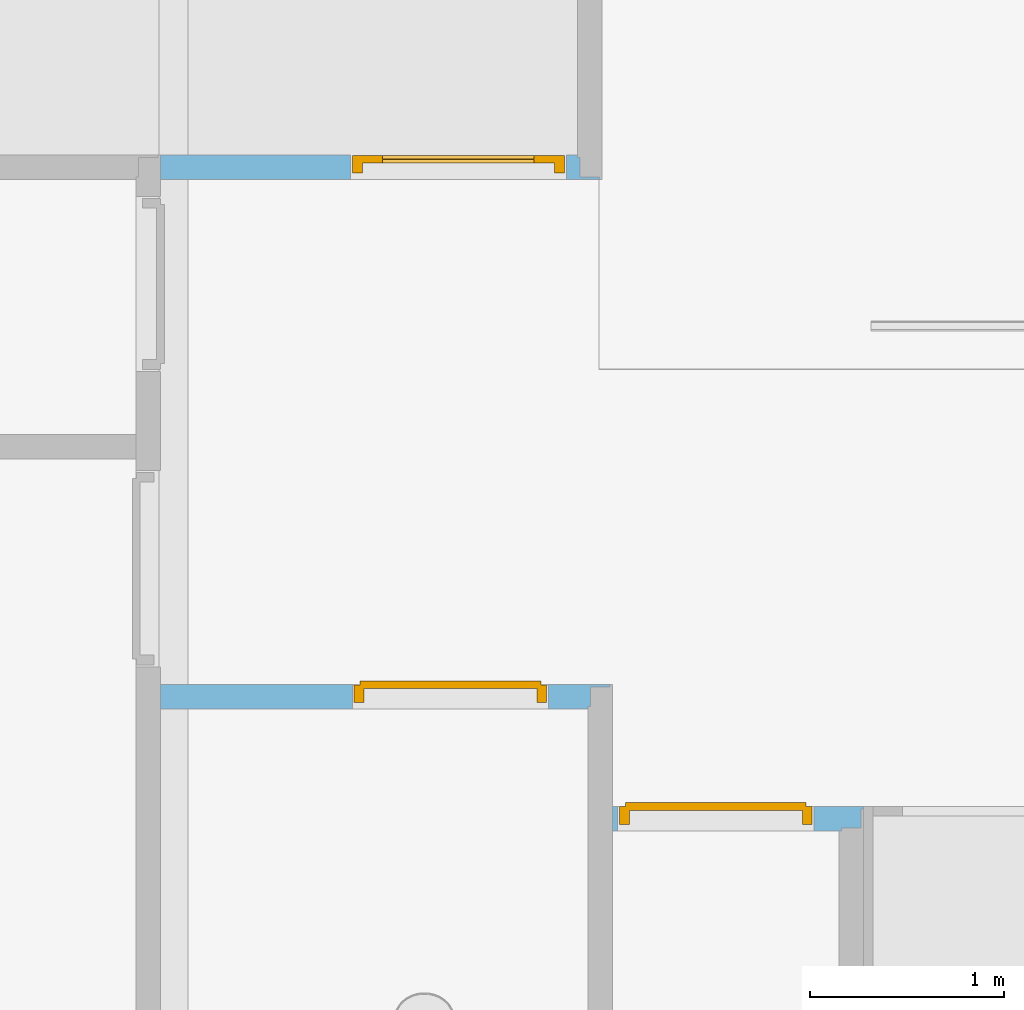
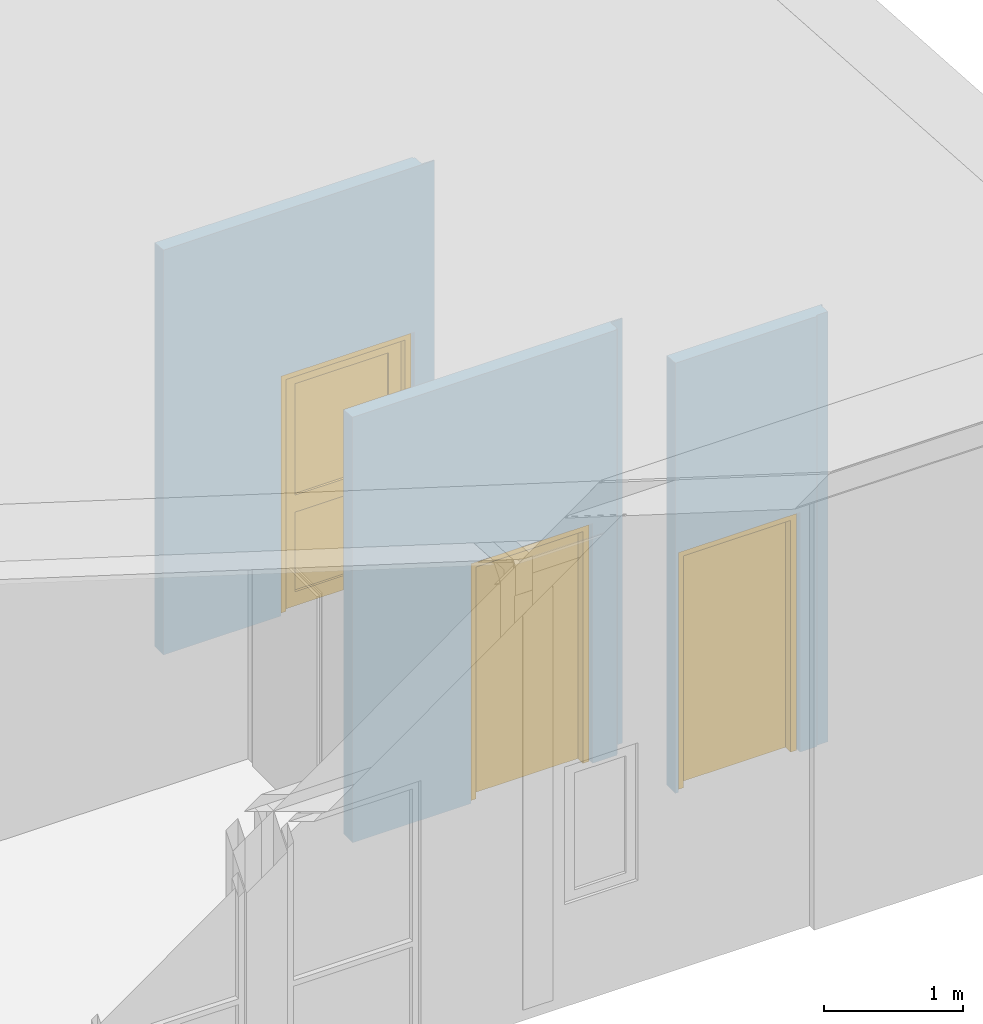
# One storey, part 30 of 37: 3 doors, 3 openings, plus 3 elements that do not belong to this part.
"""IFC2X3 building model written with IfcOpenShell, lengths in millimetres."""

from ifc_helpers import new_model, entity, si_unit, converted_unit, frame, frame_2d, origin, origin_with_axes, place, context, subcontext, project, spatial, polyline, rectangle, outline, extrude, clip, halfspace, bounded_halfspace, faceted_brep, material, layer, layer_set, layer_usage, type_object, element, fill, save


model = new_model("IFC2X3")

# Units and contexts
model_context = context("Model", 3, precision=1e-05, world=origin())
plan_context = context("Plan", 3, precision=1e-05, world=origin())
body_context = subcontext(model_context, "Body", "Model", "MODEL_VIEW")
ifc_project = project(units=[si_unit("LENGTHUNIT", "METRE", prefix="MILLI"), converted_unit("PLANEANGLEUNIT", "DEGREE", entity("IfcPlaneAngleMeasure", 0.0174532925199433), si_unit("PLANEANGLEUNIT", "RADIAN"), dimensions=[0, 0, 0, 0, 0, 0, 0]), si_unit("AREAUNIT", "SQUARE_METRE"), si_unit("VOLUMEUNIT", "CUBIC_METRE")], contexts=[model_context, plan_context])

# Building, storey
building_placement = place(None, origin())
building = spatial("IfcBuilding", under=ifc_project, at=building_placement, Name="HEKF Administrasjonbygg", CompositionType="ELEMENT")
storey_placement = place(building_placement, frame((0.0, 0.0, 9900.0), z_axis=(0.0, 0.0, 1.0), x_axis=(1.0, 0.0, 0.0)))
storey = spatial("IfcBuildingStorey", under=building, at=storey_placement, Name="Plan 2", CompositionType="ELEMENT", Elevation=9900.0)

# Wall, opening, door
ifc_material_1 = material(Name="gips")
ifc_layer_1 = layer(ifc_material_1, 13.0)
ifc_material_2 = material(Name="riegel stål 100")
ifc_layer_2 = layer(ifc_material_2, 100.0)
ifc_material_3 = material(Name="gips")
ifc_layer_3 = layer(ifc_material_3, 13.0)
ifc_layer_set_1 = layer_set([ifc_layer_1, ifc_layer_2, ifc_layer_3])
ifc_layer_usage_1 = layer_usage(ifc_layer_set_1, "AXIS2", "POSITIVE", 0.0)
wall_1_placement = place(storey_placement, frame((27077.53209661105, -6799.0, 0.0), z_axis=(0.0, 0.0, 1.0), x_axis=(-1.0, 0.0, 0.0)))
wall_1 = element("IfcWallStandardCase", 1, at=wall_1_placement, inside=storey, material=ifc_layer_usage_1, context=body_context, shape_type="Clipping", body=[
    clip(clip(extrude(outline(polyline([(-113.0, 126.0), (-113.0, 113.0), (-13.0, 113.0), (-13.0, 13.0), (0.0, 13.0), (0.0, 0.0), (2144.614546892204, 0.0), (2144.614546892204, 126.0), (-113.0, 126.0)])), origin_with_axes(), (0.0, 0.0, 1.0), 3561.666666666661), bounded_halfspace(frame((2157.614546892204, 0.0, 3553.266666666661), z_axis=(0.0, 0.06651901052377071, -0.9977851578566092), x_axis=(1.0, 0.0, 0.0)), True, origin(), polyline([(2157.614546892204, 0.0), (6301.532096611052, 0.0), (6301.532096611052, 13.0), (6201.532096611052, 13.0), (6201.532096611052, 113.0), (6188.532096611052, 113.0), (6188.532096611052, 126.0), (2270.614546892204, 126.0), (2270.614546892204, 113.0), (2257.614546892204, 113.0), (2257.614546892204, 13.0), (2157.614546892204, 13.0), (2157.614546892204, 0.0)]))), bounded_halfspace(frame((0.0, 0.0, 3553.266666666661), z_axis=(0.0, 0.06651901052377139, -0.9977851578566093), x_axis=(1.0, 0.0, 0.0)), True, origin(), polyline([(0.0, 0.0), (2144.614546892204, 0.0), (2144.614546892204, 126.0), (-113.0, 126.0), (-113.0, 113.0), (-13.0, 113.0), (-13.0, 13.0), (0.0, 13.0), (0.0, 0.0)]))),
])
opening_1_placement = place(wall_1_placement, frame((56.68656002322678, 0.0, 0.0), z_axis=(0.0, 1.0, 0.0), x_axis=(0.0, 0.0, 1.0)))
opening_1 = element("IfcOpeningElement", 2, at=opening_1_placement, cuts=wall_1, Name="Door opening", ObjectType="Opening", context=body_context, shape_type="SweptSolid", body=[
    extrude(rectangle(XDim=2110.0, YDim=1110.0, at=frame_2d((1055.0, 555.0), x_axis=(1.0, 0.0))), origin_with_axes(), (0.0, 0.0, 1.0), 126.0),
])
ifc_material_4 = material()
door_style_1 = type_object("IfcDoorStyle", Name="D105", ConstructionType="NOTDEFINED", OperationType="USERDEFINED", ParameterTakesPrecedence=False, Sizeable=False)
door_1_placement = place(opening_1_placement, frame((0.0, 0.0, 0.0), z_axis=(1.0, 0.0, 0.0), x_axis=(0.0, 1.0, 0.0)))
door_1 = element("IfcDoor", 3, at=door_1_placement, inside=storey, type_object=door_style_1, material=ifc_material_4, Name="D105", OverallHeight=2110.0, OverallWidth=1110.0, context=body_context, shape_type="Brep", body=[
    faceted_brep([(9.999999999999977, 1.000000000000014, 2090.0), (59.99999999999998, 1.0, 2090.0), (59.99999999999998, 1.000000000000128, -2.816687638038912e-15), (9.999999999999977, 1.000000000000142, -2.816687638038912e-15), (10.0, 93.00000000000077, 2.816687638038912e-15), (60.0, 93.00000000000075, 2.816687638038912e-15), (60.0, 93.00000000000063, 2090.0), (10.0, 93.00000000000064, 2090.0), (9.999999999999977, 1.000000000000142, -2.816687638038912e-15), (10.0, 93.00000000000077, 2.816687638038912e-15), (10.0, 93.00000000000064, 2090.0), (9.999999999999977, 1.000000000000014, 2090.0), (59.99999999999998, 1.000000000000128, -2.816687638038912e-15), (60.0, 93.00000000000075, 2.816687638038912e-15), (10.0, 93.00000000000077, 2.816687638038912e-15), (9.999999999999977, 1.000000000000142, -2.816687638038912e-15), (59.99999999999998, 1.0, 2090.0), (60.0, 93.00000000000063, 2090.0), (60.0, 93.00000000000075, 2.816687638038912e-15), (59.99999999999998, 1.000000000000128, -2.816687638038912e-15), (9.999999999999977, 1.000000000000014, 2090.0), (10.0, 93.00000000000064, 2090.0), (60.0, 93.00000000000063, 2090.0), (59.99999999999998, 1.0, 2090.0)], [[[0, 1, 2, 3]], [[4, 5, 6, 7]], [[8, 9, 10, 11]], [[12, 13, 14, 15]], [[16, 17, 18, 19]], [[20, 21, 22, 23]]], orient=[[False], [False], [False], [False], [False], [False]]),
    faceted_brep([(1050.0, 0.9999999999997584, 2090.0), (1100.0, 0.9999999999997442, 2090.0), (1100.0, 0.9999999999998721, -2.816687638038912e-15), (1050.0, 0.9999999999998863, -2.816687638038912e-15), (1050.0, 93.00000000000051, 2.816687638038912e-15), (1100.0, 93.00000000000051, 2.816687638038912e-15), (1100.0, 93.00000000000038, 2090.0), (1050.0, 93.00000000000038, 2090.0), (1050.0, 0.9999999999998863, -2.816687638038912e-15), (1050.0, 93.00000000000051, 2.816687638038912e-15), (1050.0, 93.00000000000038, 2090.0), (1050.0, 0.9999999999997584, 2090.0), (1100.0, 0.9999999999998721, -2.816687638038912e-15), (1100.0, 93.00000000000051, 2.816687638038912e-15), (1050.0, 93.00000000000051, 2.816687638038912e-15), (1050.0, 0.9999999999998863, -2.816687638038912e-15), (1100.0, 0.9999999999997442, 2090.0), (1100.0, 93.00000000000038, 2090.0), (1100.0, 93.00000000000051, 2.816687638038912e-15), (1100.0, 0.9999999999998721, -2.816687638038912e-15), (1050.0, 0.9999999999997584, 2090.0), (1050.0, 93.00000000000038, 2090.0), (1100.0, 93.00000000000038, 2090.0), (1100.0, 0.9999999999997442, 2090.0)], [[[0, 1, 2, 3]], [[4, 5, 6, 7]], [[8, 9, 10, 11]], [[12, 13, 14, 15]], [[16, 17, 18, 19]], [[20, 21, 22, 23]]], orient=[[False], [False], [False], [False], [False], [False]]),
    faceted_brep([(59.99999999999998, 1.0, 2090.0), (1050.0, 0.9999999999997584, 2090.0), (1050.0, 0.9999999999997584, 2040.0), (59.99999999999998, 1.0, 2040.0), (60.0, 93.00000000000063, 2040.0), (1050.0, 93.00000000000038, 2040.0), (1050.0, 93.00000000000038, 2090.0), (60.0, 93.00000000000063, 2090.0), (59.99999999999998, 1.0, 2040.0), (60.0, 93.00000000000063, 2040.0), (60.0, 93.00000000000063, 2090.0), (59.99999999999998, 1.0, 2090.0), (1050.0, 0.9999999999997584, 2040.0), (1050.0, 93.00000000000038, 2040.0), (60.0, 93.00000000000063, 2040.0), (59.99999999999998, 1.0, 2040.0), (1050.0, 0.9999999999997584, 2090.0), (1050.0, 93.00000000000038, 2090.0), (1050.0, 93.00000000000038, 2040.0), (1050.0, 0.9999999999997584, 2040.0), (59.99999999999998, 1.0, 2090.0), (60.0, 93.00000000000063, 2090.0), (1050.0, 93.00000000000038, 2090.0), (1050.0, 0.9999999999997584, 2090.0)], [[[0, 1, 2, 3]], [[4, 5, 6, 7]], [[8, 9, 10, 11]], [[12, 13, 14, 15]], [[16, 17, 18, 19]], [[20, 21, 22, 23]]], orient=[[False], [False], [False], [False], [False], [False]]),
    faceted_brep([(39.99999999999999, 1.0, 2060.0), (165.0, 0.9999999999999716, 2060.0), (165.0, 1.0000000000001, -20.0), (39.99999999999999, 1.000000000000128, -20.0), (39.99999999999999, 41.00000000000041, -20.0), (165.0, 41.00000000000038, -20.0), (165.0, 41.00000000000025, 2060.0), (39.99999999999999, 41.00000000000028, 2060.0), (39.99999999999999, 1.000000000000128, -20.0), (39.99999999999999, 41.00000000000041, -20.0), (39.99999999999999, 41.00000000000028, 2060.0), (39.99999999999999, 1.0, 2060.0), (165.0, 1.0000000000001, -20.0), (165.0, 41.00000000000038, -20.0), (39.99999999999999, 41.00000000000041, -20.0), (39.99999999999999, 1.000000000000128, -20.0), (165.0, 0.9999999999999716, 2060.0), (165.0, 41.00000000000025, 2060.0), (165.0, 41.00000000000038, -20.0), (165.0, 1.0000000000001, -20.0), (39.99999999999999, 1.0, 2060.0), (39.99999999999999, 41.00000000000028, 2060.0), (165.0, 41.00000000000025, 2060.0), (165.0, 0.9999999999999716, 2060.0)], [[[0, 1, 2, 3]], [[4, 5, 6, 7]], [[8, 9, 10, 11]], [[12, 13, 14, 15]], [[16, 17, 18, 19]], [[20, 21, 22, 23]]], orient=[[False], [False], [False], [False], [False], [False]]),
    faceted_brep([(945.0, 0.9999999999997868, 2060.0), (1070.0, 0.9999999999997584, 2060.0), (1070.0, 0.9999999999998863, -20.0), (945.0, 0.9999999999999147, -20.0), (945.0, 41.00000000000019, -20.0), (1070.0, 41.00000000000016, -20.0), (1070.0, 41.00000000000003, 2060.0), (945.0, 41.00000000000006, 2060.0), (945.0, 0.9999999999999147, -20.0), (945.0, 41.00000000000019, -20.0), (945.0, 41.00000000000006, 2060.0), (945.0, 0.9999999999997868, 2060.0), (1070.0, 0.9999999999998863, -20.0), (1070.0, 41.00000000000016, -20.0), (945.0, 41.00000000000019, -20.0), (945.0, 0.9999999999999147, -20.0), (1070.0, 0.9999999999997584, 2060.0), (1070.0, 41.00000000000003, 2060.0), (1070.0, 41.00000000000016, -20.0), (1070.0, 0.9999999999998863, -20.0), (945.0, 0.9999999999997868, 2060.0), (945.0, 41.00000000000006, 2060.0), (1070.0, 41.00000000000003, 2060.0), (1070.0, 0.9999999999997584, 2060.0)], [[[0, 1, 2, 3]], [[4, 5, 6, 7]], [[8, 9, 10, 11]], [[12, 13, 14, 15]], [[16, 17, 18, 19]], [[20, 21, 22, 23]]], orient=[[False], [False], [False], [False], [False], [False]]),
    faceted_brep([(165.0, 1.000000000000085, 105.0), (945.0, 0.9999999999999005, 105.0), (945.0, 0.9999999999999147, -20.0), (165.0, 1.0000000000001, -20.0), (165.0, 41.00000000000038, -20.0), (945.0, 41.00000000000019, -20.0), (945.0, 41.00000000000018, 105.0), (165.0, 41.00000000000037, 105.0), (165.0, 1.0000000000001, -20.0), (165.0, 41.00000000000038, -20.0), (165.0, 41.00000000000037, 105.0), (165.0, 1.000000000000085, 105.0), (945.0, 0.9999999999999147, -20.0), (945.0, 41.00000000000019, -20.0), (165.0, 41.00000000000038, -20.0), (165.0, 1.0000000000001, -20.0), (945.0, 0.9999999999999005, 105.0), (945.0, 41.00000000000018, 105.0), (945.0, 41.00000000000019, -20.0), (945.0, 0.9999999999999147, -20.0), (165.0, 1.000000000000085, 105.0), (165.0, 41.00000000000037, 105.0), (945.0, 41.00000000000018, 105.0), (945.0, 0.9999999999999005, 105.0)], [[[0, 1, 2, 3]], [[4, 5, 6, 7]], [[8, 9, 10, 11]], [[12, 13, 14, 15]], [[16, 17, 18, 19]], [[20, 21, 22, 23]]], orient=[[False], [False], [False], [False], [False], [False]]),
    faceted_brep([(165.0, 0.9999999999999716, 2060.0), (945.0, 0.9999999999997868, 2060.0), (945.0, 0.999999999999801, 1935.0), (165.0, 0.9999999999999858, 1935.0), (165.0, 41.00000000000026, 1935.0), (945.0, 41.00000000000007, 1935.0), (945.0, 41.00000000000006, 2060.0), (165.0, 41.00000000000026, 2060.0), (165.0, 0.9999999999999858, 1935.0), (165.0, 41.00000000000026, 1935.0), (165.0, 41.00000000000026, 2060.0), (165.0, 0.9999999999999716, 2060.0), (945.0, 0.999999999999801, 1935.0), (945.0, 41.00000000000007, 1935.0), (165.0, 41.00000000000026, 1935.0), (165.0, 0.9999999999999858, 1935.0), (945.0, 0.9999999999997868, 2060.0), (945.0, 41.00000000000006, 2060.0), (945.0, 41.00000000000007, 1935.0), (945.0, 0.999999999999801, 1935.0), (165.0, 0.9999999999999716, 2060.0), (165.0, 41.00000000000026, 2060.0), (945.0, 41.00000000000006, 2060.0), (945.0, 0.9999999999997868, 2060.0)], [[[0, 1, 2, 3]], [[4, 5, 6, 7]], [[8, 9, 10, 11]], [[12, 13, 14, 15]], [[16, 17, 18, 19]], [[20, 21, 22, 23]]], orient=[[False], [False], [False], [False], [False], [False]]),
    faceted_brep([(165.0, 1.000000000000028, 955.0), (945.0, 0.9999999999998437, 955.0), (945.0, 0.9999999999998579, 805.0), (165.0, 1.000000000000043, 805.0), (165.0, 41.00000000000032, 805.0), (945.0, 41.00000000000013, 805.0), (945.0, 41.00000000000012, 955.0), (165.0, 41.00000000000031, 955.0), (165.0, 1.000000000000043, 805.0), (165.0, 41.00000000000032, 805.0), (165.0, 41.00000000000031, 955.0), (165.0, 1.000000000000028, 955.0), (945.0, 0.9999999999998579, 805.0), (945.0, 41.00000000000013, 805.0), (165.0, 41.00000000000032, 805.0), (165.0, 1.000000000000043, 805.0), (945.0, 0.9999999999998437, 955.0), (945.0, 41.00000000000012, 955.0), (945.0, 41.00000000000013, 805.0), (945.0, 0.9999999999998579, 805.0), (165.0, 1.000000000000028, 955.0), (165.0, 41.00000000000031, 955.0), (945.0, 41.00000000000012, 955.0), (945.0, 0.9999999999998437, 955.0)], [[[0, 1, 2, 3]], [[4, 5, 6, 7]], [[8, 9, 10, 11]], [[12, 13, 14, 15]], [[16, 17, 18, 19]], [[20, 21, 22, 23]]], orient=[[False], [False], [False], [False], [False], [False]]),
    faceted_brep([(165.0, 21.00000000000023, 105.0), (165.0, 21.00000000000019, 805.0), (945.0, 21.0, 805.0), (945.0, 21.00000000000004, 105.0), (165.0, 22.00000000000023, 105.0), (945.0, 22.00000000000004, 105.0), (945.0, 22.0, 805.0), (165.0, 22.00000000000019, 805.0), (165.0, 21.00000000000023, 105.0), (165.0, 22.00000000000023, 105.0), (165.0, 22.00000000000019, 805.0), (165.0, 21.00000000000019, 805.0), (165.0, 21.00000000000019, 805.0), (165.0, 22.00000000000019, 805.0), (945.0, 22.0, 805.0), (945.0, 21.0, 805.0), (945.0, 21.0, 805.0), (945.0, 22.0, 805.0), (945.0, 22.00000000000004, 105.0), (945.0, 21.00000000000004, 105.0), (945.0, 21.00000000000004, 105.0), (945.0, 22.00000000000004, 105.0), (165.0, 22.00000000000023, 105.0), (165.0, 21.00000000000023, 105.0)], [[[0, 1, 2, 3]], [[4, 5, 6, 7]], [[8, 9, 10, 11]], [[12, 13, 14, 15]], [[16, 17, 18, 19]], [[20, 21, 22, 23]]], orient=[[False], [False], [False], [False], [False], [False]]),
    faceted_brep([(165.0, 21.00000000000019, 955.0), (165.0, 21.00000000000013, 1935.0), (945.0, 20.99999999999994, 1935.0), (945.0, 21.0, 955.0), (165.0, 22.00000000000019, 955.0), (945.0, 22.0, 955.0), (945.0, 21.99999999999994, 1935.0), (165.0, 22.00000000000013, 1935.0), (165.0, 21.00000000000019, 955.0), (165.0, 22.00000000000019, 955.0), (165.0, 22.00000000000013, 1935.0), (165.0, 21.00000000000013, 1935.0), (165.0, 21.00000000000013, 1935.0), (165.0, 22.00000000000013, 1935.0), (945.0, 21.99999999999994, 1935.0), (945.0, 20.99999999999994, 1935.0), (945.0, 20.99999999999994, 1935.0), (945.0, 21.99999999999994, 1935.0), (945.0, 22.0, 955.0), (945.0, 21.0, 955.0), (945.0, 21.0, 955.0), (945.0, 22.0, 955.0), (165.0, 22.00000000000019, 955.0), (165.0, 21.00000000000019, 955.0)], [[[0, 1, 2, 3]], [[4, 5, 6, 7]], [[8, 9, 10, 11]], [[12, 13, 14, 15]], [[16, 17, 18, 19]], [[20, 21, 22, 23]]], orient=[[False], [False], [False], [False], [False], [False]]),
])
fill(opening_1, door_1)

ifc_material_5 = material(Name="gips")
ifc_layer_4 = layer(ifc_material_5, 13.0)
ifc_material_6 = material(Name="riegel stål 100")
ifc_layer_5 = layer(ifc_material_6, 100.0)
ifc_material_7 = material(Name="gips")
ifc_layer_6 = layer(ifc_material_7, 13.0)
ifc_layer_set_2 = layer_set([ifc_layer_4, ifc_layer_5, ifc_layer_6])
ifc_layer_usage_2 = layer_usage(ifc_layer_set_2, "AXIS2", "POSITIVE", 0.0)
wall_2_placement = place(storey_placement, frame((27245.91754971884, -9524.000000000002, 0.0), z_axis=(0.0, 0.0, 1.0), x_axis=(-1.0, 0.0, 0.0)))
wall_2 = element("IfcWallStandardCase", 4, at=wall_2_placement, inside=storey, material=ifc_layer_usage_2, context=body_context, shape_type="Clipping", body=[
    clip(extrude(outline(polyline([(113.0, 126.0), (113.0, 113.0), (100.0, 113.0), (100.0, 13.0), (0.0, 13.0), (0.0, 0.0), (2313.0, 0.0), (2313.0, 126.0), (113.0, 126.0)])), origin_with_axes(), (0.0, 0.0, 1.0), 3743.333333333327), halfspace(frame((0.0, 0.0, 3734.933333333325), z_axis=(0.0, 0.0665190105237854, -0.9977851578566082), x_axis=(1.0, 0.0, 0.0)), True)),
])
opening_2_placement = place(wall_2_placement, frame((316.2869168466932, 0.0, 0.0), z_axis=(0.0, 1.0, 0.0), x_axis=(0.0, 0.0, 1.0)))
opening_2 = element("IfcOpeningElement", 5, at=opening_2_placement, cuts=wall_2, Name="garasjeport med glassfelter:45x6", ObjectType="Opening", context=body_context, shape_type="SweptSolid", body=[
    extrude(rectangle(XDim=2110.0, YDim=1010.0, at=frame_2d((1055.0, 505.0), x_axis=(1.0, 0.0))), origin_with_axes(), (0.0, 0.0, 1.0), 126.0),
])
ifc_material_8 = material()
door_style_2 = type_object("IfcDoorStyle", Name="D102", ConstructionType="NOTDEFINED", OperationType="USERDEFINED", ParameterTakesPrecedence=False, Sizeable=False)
door_2_placement = place(opening_2_placement, frame((0.0, 0.0, 0.0), z_axis=(1.0, 0.0, 0.0), x_axis=(0.0, 1.0, 0.0)))
door_2 = element("IfcDoor", 6, at=door_2_placement, inside=storey, type_object=door_style_2, material=ifc_material_8, Name="D102", OverallHeight=2110.0, OverallWidth=1010.0, context=body_context, shape_type="Brep", body=[
    faceted_brep([(9.999999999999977, 0.9999999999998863, 2090.0), (59.99999999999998, 0.9999999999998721, 2090.0), (59.99999999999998, 1.0, -2.816687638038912e-15), (9.999999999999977, 1.000000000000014, -2.816687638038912e-15), (10.0, 93.0, 2.816687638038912e-15), (60.0, 92.99999999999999, 2.816687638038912e-15), (60.0, 92.99999999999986, 2090.0), (10.0, 92.99999999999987, 2090.0), (9.999999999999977, 1.000000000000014, -2.816687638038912e-15), (10.0, 93.0, 2.816687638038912e-15), (10.0, 92.99999999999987, 2090.0), (9.999999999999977, 0.9999999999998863, 2090.0), (59.99999999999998, 1.0, -2.816687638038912e-15), (60.0, 92.99999999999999, 2.816687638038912e-15), (10.0, 93.0, 2.816687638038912e-15), (9.999999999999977, 1.000000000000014, -2.816687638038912e-15), (59.99999999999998, 0.9999999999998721, 2090.0), (60.0, 92.99999999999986, 2090.0), (60.0, 92.99999999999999, 2.816687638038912e-15), (59.99999999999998, 1.0, -2.816687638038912e-15), (9.999999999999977, 0.9999999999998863, 2090.0), (10.0, 92.99999999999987, 2090.0), (60.0, 92.99999999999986, 2090.0), (59.99999999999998, 0.9999999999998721, 2090.0)], [[[0, 1, 2, 3]], [[4, 5, 6, 7]], [[8, 9, 10, 11]], [[12, 13, 14, 15]], [[16, 17, 18, 19]], [[20, 21, 22, 23]]], orient=[[False], [False], [False], [False], [False], [False]]),
    faceted_brep([(950.0, 0.9999999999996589, 2090.0), (1000.0, 0.9999999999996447, 2090.0), (1000.0, 0.9999999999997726, -2.816687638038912e-15), (950.0, 0.9999999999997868, -2.816687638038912e-15), (950.0, 92.99999999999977, 2.816687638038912e-15), (1000.0, 92.99999999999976, 2.816687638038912e-15), (1000.0, 92.99999999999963, 2090.0), (950.0, 92.99999999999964, 2090.0), (950.0, 0.9999999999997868, -2.816687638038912e-15), (950.0, 92.99999999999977, 2.816687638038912e-15), (950.0, 92.99999999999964, 2090.0), (950.0, 0.9999999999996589, 2090.0), (1000.0, 0.9999999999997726, -2.816687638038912e-15), (1000.0, 92.99999999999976, 2.816687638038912e-15), (950.0, 92.99999999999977, 2.816687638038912e-15), (950.0, 0.9999999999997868, -2.816687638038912e-15), (1000.0, 0.9999999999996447, 2090.0), (1000.0, 92.99999999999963, 2090.0), (1000.0, 92.99999999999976, 2.816687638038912e-15), (1000.0, 0.9999999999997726, -2.816687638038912e-15), (950.0, 0.9999999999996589, 2090.0), (950.0, 92.99999999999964, 2090.0), (1000.0, 92.99999999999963, 2090.0), (1000.0, 0.9999999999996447, 2090.0)], [[[0, 1, 2, 3]], [[4, 5, 6, 7]], [[8, 9, 10, 11]], [[12, 13, 14, 15]], [[16, 17, 18, 19]], [[20, 21, 22, 23]]], orient=[[False], [False], [False], [False], [False], [False]]),
    faceted_brep([(59.99999999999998, 0.9999999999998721, 2090.0), (949.9999999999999, 0.9999999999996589, 2090.0), (949.9999999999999, 0.9999999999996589, 2040.0), (59.99999999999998, 0.9999999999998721, 2040.0), (60.0, 92.99999999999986, 2040.0), (949.9999999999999, 92.99999999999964, 2040.0), (949.9999999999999, 92.99999999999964, 2090.0), (60.0, 92.99999999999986, 2090.0), (59.99999999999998, 0.9999999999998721, 2040.0), (60.0, 92.99999999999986, 2040.0), (60.0, 92.99999999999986, 2090.0), (59.99999999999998, 0.9999999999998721, 2090.0), (949.9999999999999, 0.9999999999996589, 2040.0), (949.9999999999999, 92.99999999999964, 2040.0), (60.0, 92.99999999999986, 2040.0), (59.99999999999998, 0.9999999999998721, 2040.0), (949.9999999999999, 0.9999999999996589, 2090.0), (949.9999999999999, 92.99999999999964, 2090.0), (949.9999999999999, 92.99999999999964, 2040.0), (949.9999999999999, 0.9999999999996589, 2040.0), (59.99999999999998, 0.9999999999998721, 2090.0), (60.0, 92.99999999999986, 2090.0), (949.9999999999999, 92.99999999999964, 2090.0), (949.9999999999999, 0.9999999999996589, 2090.0)], [[[0, 1, 2, 3]], [[4, 5, 6, 7]], [[8, 9, 10, 11]], [[12, 13, 14, 15]], [[16, 17, 18, 19]], [[20, 21, 22, 23]]], orient=[[False], [False], [False], [False], [False], [False]]),
    faceted_brep([(39.99999999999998, -19.00000000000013, 2060.0), (969.9999999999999, -19.00000000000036, 2060.0), (969.9999999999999, -19.00000000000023, -4.041334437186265e-15), (39.99999999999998, -19.0, -4.041334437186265e-15), (39.99999999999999, 21.0, -1.592040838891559e-15), (969.9999999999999, 20.99999999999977, -1.592040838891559e-15), (969.9999999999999, 20.99999999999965, 2060.0), (39.99999999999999, 20.99999999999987, 2060.0), (39.99999999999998, -19.0, -4.041334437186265e-15), (39.99999999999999, 21.0, -1.592040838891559e-15), (39.99999999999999, 20.99999999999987, 2060.0), (39.99999999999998, -19.00000000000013, 2060.0), (969.9999999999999, -19.00000000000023, -4.041334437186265e-15), (969.9999999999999, 20.99999999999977, -1.592040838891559e-15), (39.99999999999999, 21.0, -1.592040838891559e-15), (39.99999999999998, -19.0, -4.041334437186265e-15), (969.9999999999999, -19.00000000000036, 2060.0), (969.9999999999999, 20.99999999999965, 2060.0), (969.9999999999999, 20.99999999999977, -1.592040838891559e-15), (969.9999999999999, -19.00000000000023, -4.041334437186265e-15), (39.99999999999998, -19.00000000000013, 2060.0), (39.99999999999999, 20.99999999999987, 2060.0), (969.9999999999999, 20.99999999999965, 2060.0), (969.9999999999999, -19.00000000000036, 2060.0)], [[[0, 1, 2, 3]], [[4, 5, 6, 7]], [[8, 9, 10, 11]], [[12, 13, 14, 15]], [[16, 17, 18, 19]], [[20, 21, 22, 23]]], orient=[[False], [False], [False], [False], [False], [False]]),
])
fill(opening_2, door_2)

ifc_material_9 = material(Name="gips")
ifc_layer_7 = layer(ifc_material_9, 13.0)
ifc_material_10 = material(Name="riegel stål 100")
ifc_layer_8 = layer(ifc_material_10, 100.0)
ifc_material_11 = material(Name="gips")
ifc_layer_9 = layer(ifc_material_11, 13.0)
ifc_layer_set_3 = layer_set([ifc_layer_7, ifc_layer_8, ifc_layer_9])
ifc_layer_usage_3 = layer_usage(ifc_layer_set_3, "AXIS2", "POSITIVE", 0.0)
wall_3_placement = place(storey_placement, frame((28550.0, -10150.0, 0.0), z_axis=(0.0, 0.0, 1.0), x_axis=(-1.0, 0.0, 0.0)))
wall_3 = element("IfcWallStandardCase", 7, at=wall_3_placement, inside=storey, material=ifc_layer_usage_3, context=body_context, shape_type="Clipping", body=[
    clip(extrude(outline(polyline([(113.0, 126.0), (113.0, 113.0), (13.0, 113.0), (13.0, 13.0), (0.0, 13.0), (0.0, 0.0), (1291.082450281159, 0.0), (1291.082450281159, 126.0), (113.0, 126.0)])), origin_with_axes(), (0.0, 0.0, 1.0), 3785.06666666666), halfspace(frame((0.0, 0.0, 3776.666666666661), z_axis=(0.0, 0.06651901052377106, -0.9977851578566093), x_axis=(1.0, 0.0, 0.0)), True)),
])
opening_3_placement = place(wall_3_placement, frame((254.3480308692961, 0.0, 0.0), z_axis=(0.0, 1.0, 0.0), x_axis=(0.0, 0.0, 1.0)))
opening_3 = element("IfcOpeningElement", 8, at=opening_3_placement, cuts=wall_3, Name="Door opening", ObjectType="Opening", context=body_context, shape_type="SweptSolid", body=[
    extrude(rectangle(XDim=2110.0, YDim=1010.0, at=frame_2d((1055.0, 505.0), x_axis=(1.0, 0.0))), origin_with_axes(), (0.0, 0.0, 1.0), 126.0),
])
ifc_material_12 = material()
door_style_3 = type_object("IfcDoorStyle", Name="D101", ConstructionType="NOTDEFINED", OperationType="USERDEFINED", ParameterTakesPrecedence=False, Sizeable=False)
door_3_placement = place(opening_3_placement, frame((0.0, 0.0, 0.0), z_axis=(1.0, 0.0, 0.0), x_axis=(0.0, 1.0, 0.0)))
door_3 = element("IfcDoor", 9, at=door_3_placement, inside=storey, type_object=door_style_3, material=ifc_material_12, Name="D101", OverallHeight=2110.0, OverallWidth=1010.0, context=body_context, shape_type="Brep", body=[
    faceted_brep([(1000.0, 0.9999999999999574, 2090.0), (1000.0, 1.000000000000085, -2.816687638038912e-15), (950.0, 1.0000000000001, -2.816687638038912e-15), (950.0, 0.9999999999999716, 2090.0), (1000.0, 92.99999999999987, 2.816687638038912e-15), (1000.0, 92.99999999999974, 2090.0), (950.0, 92.99999999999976, 2090.0), (950.0, 92.99999999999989, 2.816687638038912e-15), (1000.0, 1.000000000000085, -2.816687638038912e-15), (1000.0, 0.9999999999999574, 2090.0), (1000.0, 92.99999999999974, 2090.0), (1000.0, 92.99999999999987, 2.816687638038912e-15), (950.0, 1.0000000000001, -2.816687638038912e-15), (1000.0, 1.000000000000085, -2.816687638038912e-15), (1000.0, 92.99999999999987, 2.816687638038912e-15), (950.0, 92.99999999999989, 2.816687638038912e-15), (950.0, 0.9999999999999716, 2090.0), (950.0, 1.0000000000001, -2.816687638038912e-15), (950.0, 92.99999999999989, 2.816687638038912e-15), (950.0, 92.99999999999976, 2090.0), (1000.0, 0.9999999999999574, 2090.0), (950.0, 0.9999999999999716, 2090.0), (950.0, 92.99999999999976, 2090.0), (1000.0, 92.99999999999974, 2090.0)], [[[0, 1, 2, 3]], [[4, 5, 6, 7]], [[8, 9, 10, 11]], [[12, 13, 14, 15]], [[16, 17, 18, 19]], [[20, 21, 22, 23]]], orient=[[False], [False], [False], [False], [False], [False]]),
    faceted_brep([(60.0, 1.000000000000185, 2090.0), (60.0, 1.000000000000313, -2.816687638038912e-15), (10.0, 1.000000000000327, -2.816687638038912e-15), (10.0, 1.000000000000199, 2090.0), (60.0, 93.00000000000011, 2.816687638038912e-15), (60.0, 92.99999999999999, 2090.0), (10.0, 92.99999999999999, 2090.0), (10.0, 93.00000000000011, 2.816687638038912e-15), (60.0, 1.000000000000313, -2.816687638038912e-15), (60.0, 1.000000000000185, 2090.0), (60.0, 92.99999999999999, 2090.0), (60.0, 93.00000000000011, 2.816687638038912e-15), (10.0, 1.000000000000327, -2.816687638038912e-15), (60.0, 1.000000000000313, -2.816687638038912e-15), (60.0, 93.00000000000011, 2.816687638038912e-15), (10.0, 93.00000000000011, 2.816687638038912e-15), (10.0, 1.000000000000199, 2090.0), (10.0, 1.000000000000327, -2.816687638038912e-15), (10.0, 93.00000000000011, 2.816687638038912e-15), (10.0, 92.99999999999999, 2090.0), (60.0, 1.000000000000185, 2090.0), (10.0, 1.000000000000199, 2090.0), (10.0, 92.99999999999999, 2090.0), (60.0, 92.99999999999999, 2090.0)], [[[0, 1, 2, 3]], [[4, 5, 6, 7]], [[8, 9, 10, 11]], [[12, 13, 14, 15]], [[16, 17, 18, 19]], [[20, 21, 22, 23]]], orient=[[False], [False], [False], [False], [False], [False]]),
    faceted_brep([(950.0, 0.9999999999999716, 2090.0), (950.0, 0.9999999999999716, 2040.0), (60.00000000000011, 1.000000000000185, 2040.0), (60.00000000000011, 1.000000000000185, 2090.0), (950.0, 92.99999999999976, 2040.0), (950.0, 92.99999999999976, 2090.0), (60.00000000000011, 92.99999999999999, 2090.0), (60.00000000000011, 92.99999999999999, 2040.0), (950.0, 0.9999999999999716, 2040.0), (950.0, 0.9999999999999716, 2090.0), (950.0, 92.99999999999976, 2090.0), (950.0, 92.99999999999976, 2040.0), (60.00000000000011, 1.000000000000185, 2040.0), (950.0, 0.9999999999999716, 2040.0), (950.0, 92.99999999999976, 2040.0), (60.00000000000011, 92.99999999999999, 2040.0), (60.00000000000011, 1.000000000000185, 2090.0), (60.00000000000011, 1.000000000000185, 2040.0), (60.00000000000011, 92.99999999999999, 2040.0), (60.00000000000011, 92.99999999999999, 2090.0), (950.0, 0.9999999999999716, 2090.0), (60.00000000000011, 1.000000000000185, 2090.0), (60.00000000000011, 92.99999999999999, 2090.0), (950.0, 92.99999999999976, 2090.0)], [[[0, 1, 2, 3]], [[4, 5, 6, 7]], [[8, 9, 10, 11]], [[12, 13, 14, 15]], [[16, 17, 18, 19]], [[20, 21, 22, 23]]], orient=[[False], [False], [False], [False], [False], [False]]),
    faceted_brep([(970.0, -18.99999999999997, 2060.0), (970.0, -18.99999999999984, -4.041334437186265e-15), (40.00000000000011, -18.99999999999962, -4.041334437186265e-15), (40.00000000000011, -18.99999999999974, 2060.0), (970.0, 21.00000000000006, -1.592040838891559e-15), (970.0, 20.99999999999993, 2060.0), (40.00000000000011, 21.00000000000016, 2060.0), (40.00000000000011, 21.00000000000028, -1.592040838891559e-15), (970.0, -18.99999999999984, -4.041334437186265e-15), (970.0, -18.99999999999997, 2060.0), (970.0, 20.99999999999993, 2060.0), (970.0, 21.00000000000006, -1.592040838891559e-15), (40.00000000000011, -18.99999999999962, -4.041334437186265e-15), (970.0, -18.99999999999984, -4.041334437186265e-15), (970.0, 21.00000000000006, -1.592040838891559e-15), (40.00000000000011, 21.00000000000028, -1.592040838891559e-15), (40.00000000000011, -18.99999999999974, 2060.0), (40.00000000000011, -18.99999999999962, -4.041334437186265e-15), (40.00000000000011, 21.00000000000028, -1.592040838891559e-15), (40.00000000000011, 21.00000000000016, 2060.0), (970.0, -18.99999999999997, 2060.0), (40.00000000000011, -18.99999999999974, 2060.0), (40.00000000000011, 21.00000000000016, 2060.0), (970.0, 20.99999999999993, 2060.0)], [[[0, 1, 2, 3]], [[4, 5, 6, 7]], [[8, 9, 10, 11]], [[12, 13, 14, 15]], [[16, 17, 18, 19]], [[20, 21, 22, 23]]], orient=[[False], [False], [False], [False], [False], [False]]),
])
fill(opening_3, door_3)

save(model, "model.ifc")
